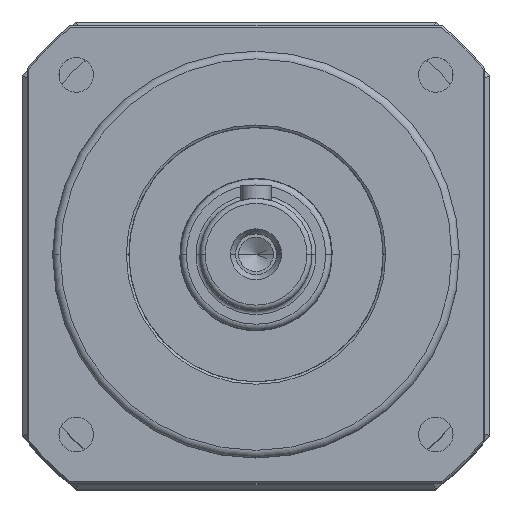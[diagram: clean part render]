
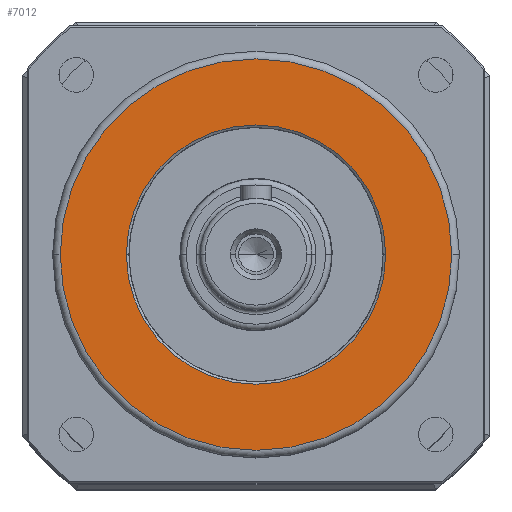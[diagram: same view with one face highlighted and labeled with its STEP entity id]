
A CAD part, top view. The second image highlights one B-rep face of the part: STEP entity #7012.
In plain terms, the highlighted planar face has unit normal (0, 0, 1).
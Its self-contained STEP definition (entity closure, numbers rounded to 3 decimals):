
#754 = EDGE_LOOP ( 'NONE', ( #4735, #4734 ) ) ;
#756 = EDGE_LOOP ( 'NONE', ( #4731, #4733 ) ) ;
#2719 = VERTEX_POINT ( 'NONE', #17711 ) ;
#2720 = VERTEX_POINT ( 'NONE', #17712 ) ;
#2723 = VERTEX_POINT ( 'NONE', #17715 ) ;
#2724 = VERTEX_POINT ( 'NONE', #17716 ) ;
#4731 = ORIENTED_EDGE ( 'NONE', *, *, #10689, .T. ) ;
#4733 = ORIENTED_EDGE ( 'NONE', *, *, #16225, .T. ) ;
#4734 = ORIENTED_EDGE ( 'NONE', *, *, #16226, .T. ) ;
#4735 = ORIENTED_EDGE ( 'NONE', *, *, #10693, .T. ) ;
#7012 = ADVANCED_FACE ( 'NONE', ( #13296, #13297 ), #11845, .T. ) ;
#7375 = CIRCLE ( 'NONE', #7415, 25.5 ) ;
#7414 = CIRCLE ( 'NONE', #7417, 38.5 ) ;
#7415 = AXIS2_PLACEMENT_3D ( 'NONE', #12107, #12108, #12109 ) ;
#7417 = AXIS2_PLACEMENT_3D ( 'NONE', #12110, #12111, #12112 ) ;
#10689 = EDGE_CURVE ( 'NONE', #2723, #2724, #13733, .T. ) ;
#10693 = EDGE_CURVE ( 'NONE', #2719, #2720, #13741, .T. ) ;
#11845 = PLANE ( 'NONE',  #14689 ) ;
#11846 = CARTESIAN_POINT ( 'NONE',  ( 0., 0., 10. ) ) ;
#11847 = DIRECTION ( 'NONE',  ( 0., 0., 1. ) ) ;
#11848 = DIRECTION ( 'NONE',  ( 1., 0., 0. ) ) ;
#12107 = CARTESIAN_POINT ( 'NONE',  ( 0., 0., 10. ) ) ;
#12108 = DIRECTION ( 'NONE',  ( 0., 0., -1. ) ) ;
#12109 = DIRECTION ( 'NONE',  ( 1., 0., 0. ) ) ;
#12110 = CARTESIAN_POINT ( 'NONE',  ( 0., 0., 10. ) ) ;
#12111 = DIRECTION ( 'NONE',  ( 0., 0., 1. ) ) ;
#12112 = DIRECTION ( 'NONE',  ( 1., 0., 0. ) ) ;
#13296 = FACE_BOUND ( 'NONE', #756, .T. ) ;
#13297 = FACE_OUTER_BOUND ( 'NONE', #754, .T. ) ;
#13546 = CARTESIAN_POINT ( 'NONE',  ( 0., 0., 10. ) ) ;
#13547 = DIRECTION ( 'NONE',  ( 0., 0., -1. ) ) ;
#13548 = DIRECTION ( 'NONE',  ( 1., 0., 0. ) ) ;
#13557 = CARTESIAN_POINT ( 'NONE',  ( 0., 0., 10. ) ) ;
#13558 = DIRECTION ( 'NONE',  ( 0., 0., 1. ) ) ;
#13559 = DIRECTION ( 'NONE',  ( 1., 0., 0. ) ) ;
#13733 = CIRCLE ( 'NONE', #13734, 25.5 ) ;
#13734 = AXIS2_PLACEMENT_3D ( 'NONE', #13546, #13547, #13548 ) ;
#13741 = CIRCLE ( 'NONE', #13742, 38.5 ) ;
#13742 = AXIS2_PLACEMENT_3D ( 'NONE', #13557, #13558, #13559 ) ;
#14689 = AXIS2_PLACEMENT_3D ( 'NONE', #11846, #11847, #11848 ) ;
#16225 = EDGE_CURVE ( 'NONE', #2724, #2723, #7375, .T. ) ;
#16226 = EDGE_CURVE ( 'NONE', #2720, #2719, #7414, .T. ) ;
#17711 = CARTESIAN_POINT ( 'NONE',  ( 38.5, 0., 10. ) ) ;
#17712 = CARTESIAN_POINT ( 'NONE',  ( -38.5, 0., 10. ) ) ;
#17715 = CARTESIAN_POINT ( 'NONE',  ( 25.5, 0., 10. ) ) ;
#17716 = CARTESIAN_POINT ( 'NONE',  ( -25.5, 0., 10. ) ) ;
